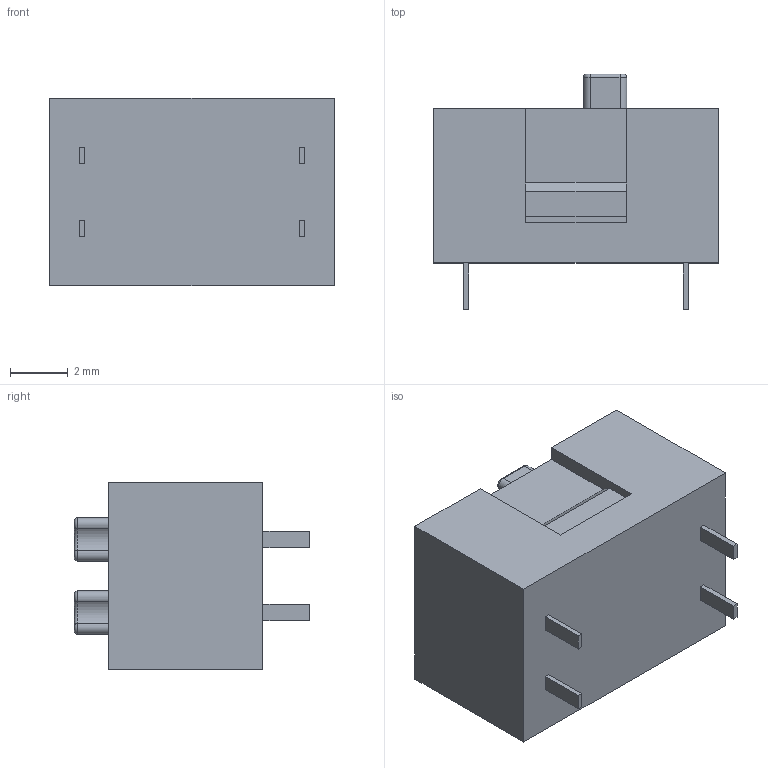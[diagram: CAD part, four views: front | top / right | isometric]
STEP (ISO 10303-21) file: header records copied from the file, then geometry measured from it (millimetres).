
FILE_DESCRIPTION (( 'STEP AP214' ), '1' );
FILE_NAME ('DS01-254-L-02BE_navX2-mxp-cad.step', '2025-12-23T16:03:39', ( '' ), ( '' ), 'SwSTEP 2.0', 'SolidWorks 2026', '' );
FILE_SCHEMA (( 'AUTOMOTIVE_DESIGN' ));
Length unit declared in the file: inch
Products named in the file (2): DS01-254-L-02BE_navX2-mxp-cad; COMPOUND-18_DS01-254-L-02BE_navX2-mxp-cad
Assembly tree (1 placements, depth 2):
  DS01-254-L-02BE_navX2-mxp-cad
    COMPOUND-18_DS01-254-L-02BE_navX2-mxp-cad
Bounding box: 9.9 x 8.18 x 6.5 mm (x, y, z)
Volume: 338.6 mm3; surface area: 349.8 mm2
Topology: 5 solids, 5 shells, 92 faces, 212 edges, 132 vertices
Faces by surface type: plane 64, cylinder 16, torus 12
Entity records: 2673 total; most frequent: DIRECTION 460, CARTESIAN_POINT 440, ORIENTED_EDGE 424, EDGE_CURVE 212, VECTOR 156, LINE 156, AXIS2_PLACEMENT_3D 152, VERTEX_POINT 132
